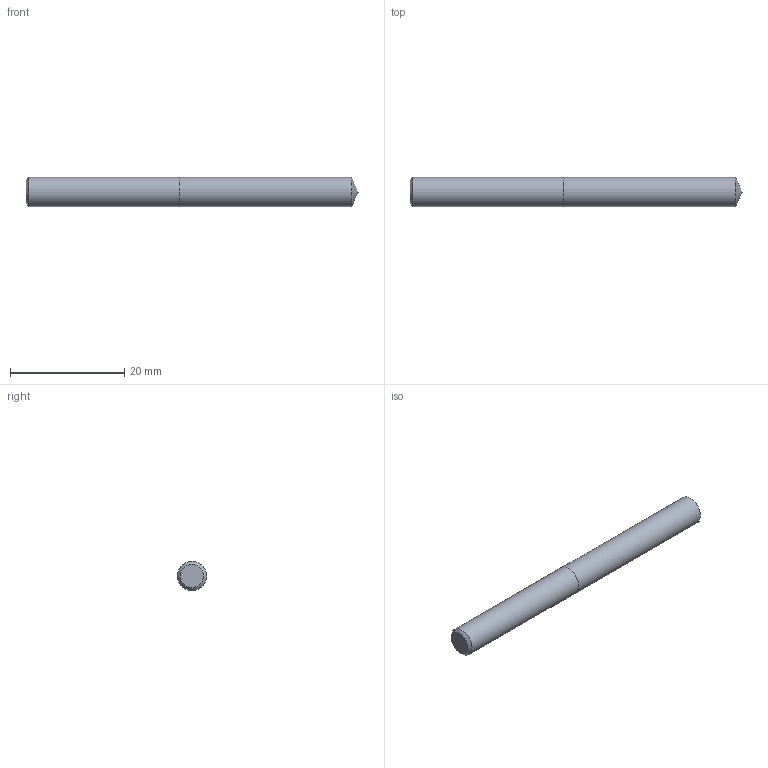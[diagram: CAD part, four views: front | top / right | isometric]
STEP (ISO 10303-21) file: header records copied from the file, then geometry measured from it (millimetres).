
FILE_DESCRIPTION (( 'STEP AP214' ), '1' );
FILE_NAME ('03-2349.STEP', '2022-06-03T06:34:03', ( 'USER' ), ( '' ), 'SwSTEP 2.0', 'SolidWorks 2018', '' );
FILE_SCHEMA (( 'AUTOMOTIVE_DESIGN' ));
Length unit declared in the file: inch
Products named in the file (1): 03-2349
Bounding box: 58.21 x 5.11 x 5.11 mm (x, y, z)
Volume: 1175.2 mm3; surface area: 995.1 mm2
Topology: 2 solids, 2 shells, 7 faces, 11 edges, 7 vertices
Faces by surface type: plane 3, cylinder 2, cone 2
Full cylindrical faces by diameter (mm): 5.105 x2
Entity records: 214 total; most frequent: DIRECTION 26, CARTESIAN_POINT 18, AXIS2_PLACEMENT_3D 13, ORIENTED_EDGE 10, EDGE_LOOP 10, FACE_OUTER_BOUND 9, DIMENSIONAL_EXPONENTS 7, LENGTH_MEASURE_WITH_UNIT 7
